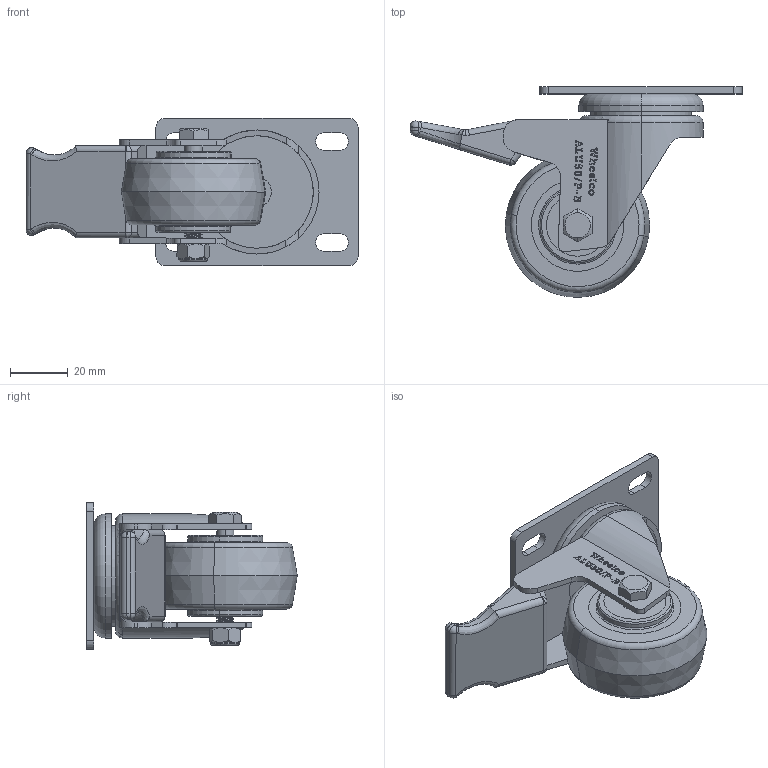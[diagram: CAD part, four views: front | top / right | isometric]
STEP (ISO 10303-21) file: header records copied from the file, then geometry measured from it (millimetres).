
FILE_DESCRIPTION (( 'STEP AP214' ), '1' );
FILE_NAME ('ALU50-P-B.step', '2024-01-18T00:21:11', ( '' ), ( '' ), 'SwSTEP 2.0', 'SolidWorks 2022', '' );
FILE_SCHEMA (( 'AUTOMOTIVE_DESIGN' ));
Length unit declared in the file: millimetre
Products named in the file (6): ALU50-P-B; M6NYLOC-WHITE; ALU50-H-B; M6x45; ALU 50MM WHEEL; 70X51 PLATE
Assembly tree (5 placements, depth 2):
  ALU50-P-B
    ALU50-H-B
    ALU 50MM WHEEL
    M6x45
    M6NYLOC-WHITE
    70X51 PLATE
Bounding box: 115.03 x 73 x 51 mm (x, y, z)
Volume: 83326.4 mm3; surface area: 33772.5 mm2
Topology: 5 solids, 5 shells, 545 faces, 1430 edges, 933 vertices
Faces by surface type: plane 262, cylinder 116, bspline 114, torus 25, cone 20, sphere 8
Entity records: 26244 total; most frequent: CARTESIAN_POINT 12743, ORIENTED_EDGE 2848, DIRECTION 2171, EDGE_CURVE 1424, VERTEX_POINT 929, LINE 817, VECTOR 817, AXIS2_PLACEMENT_3D 677
